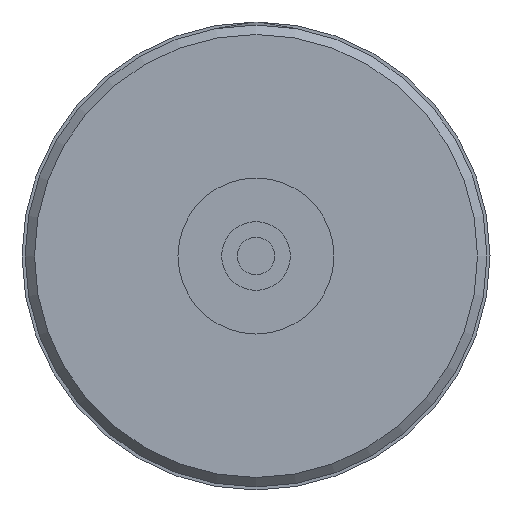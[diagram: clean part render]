
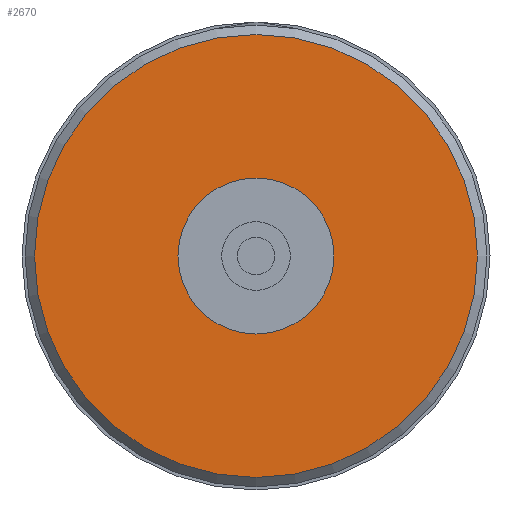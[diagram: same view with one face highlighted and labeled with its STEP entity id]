
A CAD part, left-side view. The second image highlights one B-rep face of the part: STEP entity #2670.
In plain terms, the highlighted planar face has unit normal (-1, 0, 0).
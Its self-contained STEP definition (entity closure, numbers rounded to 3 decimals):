
#2670=ADVANCED_FACE('', (#2680,#2690), #2700, .T.);
#8450=AXIS2_PLACEMENT_3D('Ax2Pl3d', #8460, #8470, #8480);
#8490=AXIS2_PLACEMENT_3D('Ax2Pl3d', #8500, #8510, #8520);
#8530=AXIS2_PLACEMENT_3D('Ax2Pl3d', #8540, #8550, #8560);
#8460=CARTESIAN_POINT('HicPkt', (0.,0.,0.));
#12850=CARTESIAN_POINT('', (0.,0.,7.1));
#8500=CARTESIAN_POINT('HicPkt', (0.,0.,7.1));
#8540=CARTESIAN_POINT('HicPkt', (0.,0.,0.));
#12860=CARTESIAN_POINT('', (0.,0.,2.5));
#13430=CIRCLE('Circle', #8450, 7.1);
#13440=CIRCLE('Circle', #8530, 2.5);
#8470=DIRECTION('Axis', (-1.,0.,0.))
;
#8480=DIRECTION('RefDirection', (0.,
0.,-1.));
#8510=DIRECTION('Axis', (-1.,0.,0.))
;
#8520=DIRECTION('RefDirection', (0.,
0.,-1.));
#8550=DIRECTION('Axis', (-1.,0.,0.))
;
#8560=DIRECTION('RefDirection', (0.,
0.,-1.));
#27880=EDGE_CURVE('', #27890, #27890, #13430, .T.);
#27900=EDGE_CURVE('', #27910, #27910, #13440, .T.);
#33330=EDGE_LOOP('Edge_loop', (#33340));
#33350=EDGE_LOOP('Edge_loop', (#33360));
#2690=FACE_BOUND('', #33350, .T.);
#2680=FACE_OUTER_BOUND('Face_outer_bound', #33330, .T.);
#33340=ORIENTED_EDGE('', *, *, #27880, .T.);
#33360=ORIENTED_EDGE('', *, *, #27900, .F.);
#2700=PLANE('Plane', #8490);
#27890=VERTEX_POINT('', #12850);
#27910=VERTEX_POINT('', #12860);
